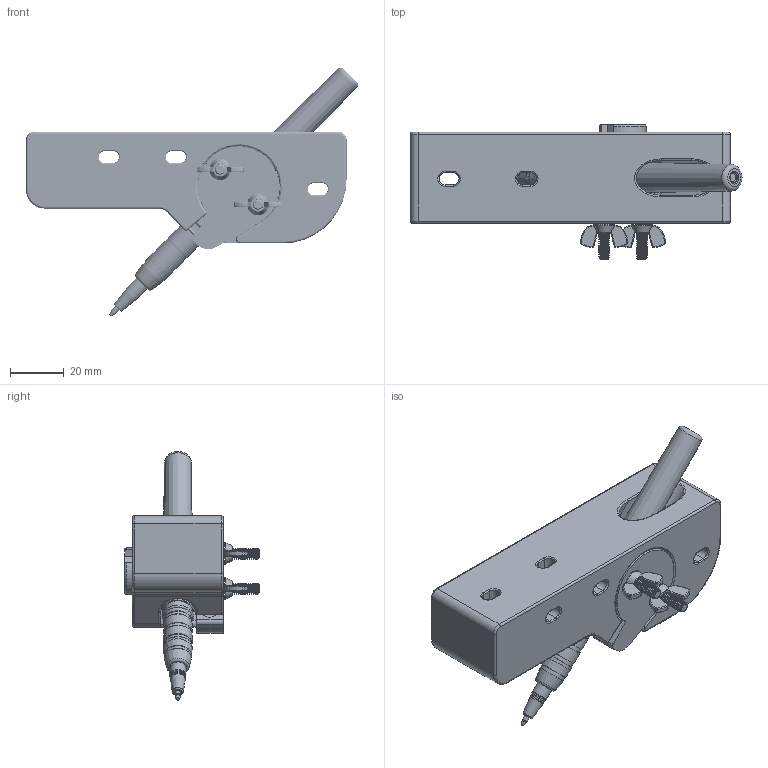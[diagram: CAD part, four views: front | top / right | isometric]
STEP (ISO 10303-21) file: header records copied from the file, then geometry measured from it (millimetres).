
FILE_DESCRIPTION(/* description */ (''),/* implementation_level */ '2;1');
FILE_NAME(/* name */ 'C:/Users/jcb/Downloads/Plotter marker mk2 v14.step',/* time_stamp */ '2019-06-29T23:31:43+01:00',/* author */ (''),/* organization */ (''),/* preprocessor_version */ 'ST-DEVELOPER v18',/* originating_system */ 'Autodesk Translation Framework v8.2.0.1029',/* authorisation */ '');
FILE_SCHEMA (('AUTOMOTIVE_DESIGN { 1 0 10303 214 3 1 1 }'));
Length unit declared in the file: millimetre
Products named in the file (4): Plotter marker mk2; Fine marker pen v19; M4x40mm; M4_wingnut
Assembly tree (5 placements, depth 2):
  Plotter marker mk2
    Fine marker pen v19
    M4x40mm  x2
    M4_wingnut  x2
Bounding box: 123.97 x 50.37 x 92.88 mm (x, y, z)
Volume: 132247.7 mm3; surface area: 37707.8 mm2
Topology: 8 solids, 8 shells, 736 faces, 1961 edges, 1274 vertices
Faces by surface type: cylinder 383, plane 132, bspline 101, torus 82, cone 37, sphere 1
Full cylindrical faces by diameter (mm): 2 x1, 3.091 x116, 4 x121, 4.5 x5, 5.556 x1, 5.666 x1, 5.778 x1, 6 x3, 9.8 x1, 10.2 x3, 10.599 x5, 18.439 x1, 30 x1, 30.6 x1
Entity records: 29542 total; most frequent: CARTESIAN_POINT 17906, ORIENTED_EDGE 2556, DIRECTION 2223, EDGE_CURVE 1278, AXIS2_PLACEMENT_3D 889, VERTEX_POINT 827, EDGE_LOOP 537, FACE_OUTER_BOUND 488
